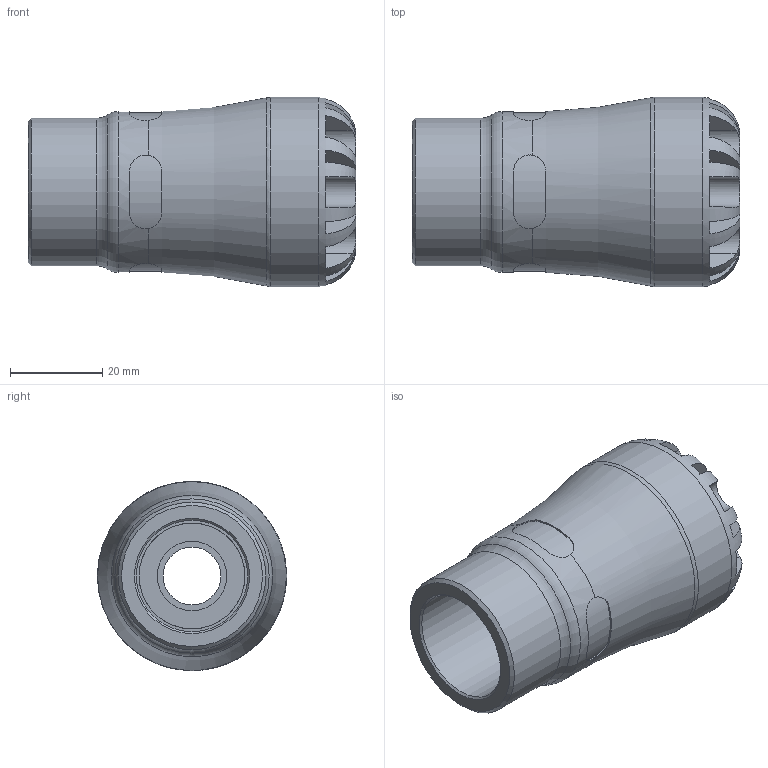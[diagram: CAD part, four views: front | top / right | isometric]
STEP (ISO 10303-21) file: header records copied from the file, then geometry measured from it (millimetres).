
FILE_DESCRIPTION(/* description */ ('PLASSON FEMALE COPPER ADAPTOR 15X3/4" SERIES 1'),/* implementation_level */ '2;1');
FILE_NAME(/* name */ 'C:\Dropbox\KIMPROJECTS-Inventor\99-16-3568-Processing\1003C\1003C7015007.ipt.step',/* time_stamp */ '2017-01-22T10:25:20+02:00',/* author */ ('KIM'),/* organization */ (''),/* preprocessor_version */ 'ST-DEVELOPER v15.6',/* originating_system */ 'Autodesk Inventor 2015',/* authorisation */ '');
FILE_SCHEMA (('AUTOMOTIVE_DESIGN { 1 0 10303 214 3 1 1 }'));
Length unit declared in the file: millimetre
Products named in the file (1): 1003C7015007
Bounding box: 71 x 41 x 41 mm (x, y, z)
Volume: 52610.2 mm3; surface area: 14754.3 mm2
Topology: 1 solids, 1 shells, 106 faces, 269 edges, 169 vertices
Faces by surface type: plane 62, cylinder 36, torus 5, cone 3
Full cylindrical faces by diameter (mm): 12.5 x1, 15 x2, 22.911 x1, 24.117 x1, 31.98 x1, 34.85 x1, 41 x1
Entity records: 4002 total; most frequent: CARTESIAN_POINT 1475, ORIENTED_EDGE 496, DIRECTION 486, EDGE_CURVE 248, AXIS2_PLACEMENT_3D 203, VERTEX_POINT 164, EDGE_LOOP 128, STYLED_ITEM 107
